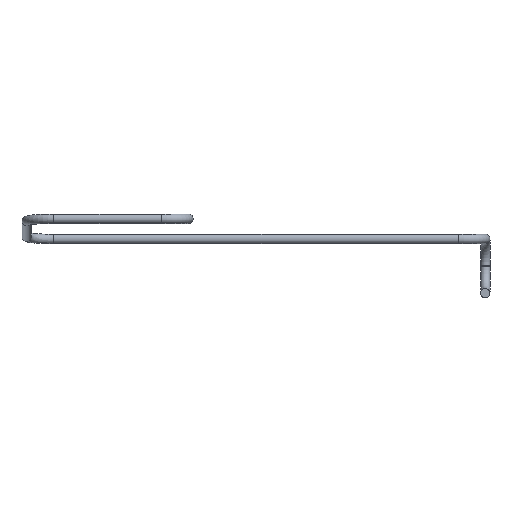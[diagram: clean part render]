
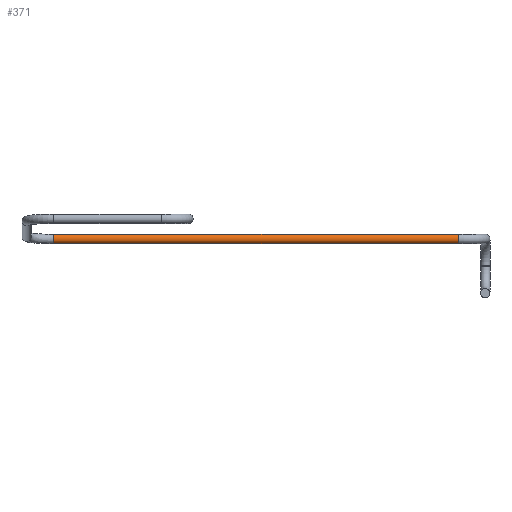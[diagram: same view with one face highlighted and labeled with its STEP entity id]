
A CAD part, left-side view. The second image highlights one B-rep face of the part: STEP entity #371.
In plain terms, the highlighted cylindrical face has radius 0.525 mm (diameter 1.05 mm), a full revolution.
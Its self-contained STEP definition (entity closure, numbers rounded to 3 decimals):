
#305 = TOROIDAL_SURFACE('',#306,3.,0.525);
#306 = AXIS2_PLACEMENT_3D('',#307,#308,#309);
#307 = CARTESIAN_POINT('',(8.5,-28.04,-11.15));
#308 = DIRECTION('',(-0.,0.,-1.));
#309 = DIRECTION('',(0.,-1.,0.));
#322 = VERTEX_POINT('',#323);
#323 = CARTESIAN_POINT('',(5.5,-28.04,-11.675));
#344 = EDGE_CURVE('',#322,#322,#345,.T.);
#345 = SURFACE_CURVE('',#346,(#351,#358),.PCURVE_S1.);
#346 = CIRCLE('',#347,0.525);
#347 = AXIS2_PLACEMENT_3D('',#348,#349,#350);
#348 = CARTESIAN_POINT('',(5.5,-28.04,-11.15));
#349 = DIRECTION('',(0.,-1.,0.));
#350 = DIRECTION('',(-1.,0.,0.));
#351 = PCURVE('',#305,#352);
#352 = DEFINITIONAL_REPRESENTATION('',(#353),#357);
#353 = LINE('',#354,#355);
#354 = CARTESIAN_POINT('',(1.571,0.));
#355 = VECTOR('',#356,1.);
#356 = DIRECTION('',(0.,1.));
#357 = ( GEOMETRIC_REPRESENTATION_CONTEXT(2) 
PARAMETRIC_REPRESENTATION_CONTEXT() REPRESENTATION_CONTEXT('2D SPACE',''
  ) );
#358 = PCURVE('',#359,#364);
#359 = CYLINDRICAL_SURFACE('',#360,0.525);
#360 = AXIS2_PLACEMENT_3D('',#361,#362,#363);
#361 = CARTESIAN_POINT('',(5.5,-28.04,-11.15));
#362 = DIRECTION('',(0.,1.,0.));
#363 = DIRECTION('',(0.,0.,-1.));
#364 = DEFINITIONAL_REPRESENTATION('',(#365),#368);
#365 = B_SPLINE_CURVE_WITH_KNOTS('',1,(#366,#367),.UNSPECIFIED.,.F.,.F.,
  (2,2),(1.571,7.854),.PIECEWISE_BEZIER_KNOTS.);
#366 = CARTESIAN_POINT('',(6.283,0.));
#367 = CARTESIAN_POINT('',(0.,0.));
#368 = ( GEOMETRIC_REPRESENTATION_CONTEXT(2) 
PARAMETRIC_REPRESENTATION_CONTEXT() REPRESENTATION_CONTEXT('2D SPACE',''
  ) );
#371 = ADVANCED_FACE('',(#372),#359,.T.);
#372 = FACE_BOUND('',#373,.T.);
#373 = EDGE_LOOP('',(#374,#396,#422,#423));
#374 = ORIENTED_EDGE('',*,*,#375,.T.);
#375 = EDGE_CURVE('',#322,#376,#378,.T.);
#376 = VERTEX_POINT('',#377);
#377 = CARTESIAN_POINT('',(5.5,17.,-11.675));
#378 = SEAM_CURVE('',#379,(#383,#389),.PCURVE_S1.);
#379 = LINE('',#380,#381);
#380 = CARTESIAN_POINT('',(5.5,-28.04,-11.675));
#381 = VECTOR('',#382,1.);
#382 = DIRECTION('',(0.,1.,0.));
#383 = PCURVE('',#359,#384);
#384 = DEFINITIONAL_REPRESENTATION('',(#385),#388);
#385 = B_SPLINE_CURVE_WITH_KNOTS('',1,(#386,#387),.UNSPECIFIED.,.F.,.F.,
  (2,2),(0.,45.04),.PIECEWISE_BEZIER_KNOTS.);
#386 = CARTESIAN_POINT('',(6.283,0.));
#387 = CARTESIAN_POINT('',(6.283,45.04));
#388 = ( GEOMETRIC_REPRESENTATION_CONTEXT(2) 
PARAMETRIC_REPRESENTATION_CONTEXT() REPRESENTATION_CONTEXT('2D SPACE',''
  ) );
#389 = PCURVE('',#359,#390);
#390 = DEFINITIONAL_REPRESENTATION('',(#391),#395);
#391 = LINE('',#392,#393);
#392 = CARTESIAN_POINT('',(0.,0.));
#393 = VECTOR('',#394,1.);
#394 = DIRECTION('',(0.,1.));
#395 = ( GEOMETRIC_REPRESENTATION_CONTEXT(2) 
PARAMETRIC_REPRESENTATION_CONTEXT() REPRESENTATION_CONTEXT('2D SPACE',''
  ) );
#396 = ORIENTED_EDGE('',*,*,#397,.F.);
#397 = EDGE_CURVE('',#376,#376,#398,.T.);
#398 = SURFACE_CURVE('',#399,(#404,#411),.PCURVE_S1.);
#399 = CIRCLE('',#400,0.525);
#400 = AXIS2_PLACEMENT_3D('',#401,#402,#403);
#401 = CARTESIAN_POINT('',(5.5,17.,-11.15));
#402 = DIRECTION('',(0.,1.,0.));
#403 = DIRECTION('',(0.,0.,-1.));
#404 = PCURVE('',#359,#405);
#405 = DEFINITIONAL_REPRESENTATION('',(#406),#410);
#406 = LINE('',#407,#408);
#407 = CARTESIAN_POINT('',(0.,45.04));
#408 = VECTOR('',#409,1.);
#409 = DIRECTION('',(1.,0.));
#410 = ( GEOMETRIC_REPRESENTATION_CONTEXT(2) 
PARAMETRIC_REPRESENTATION_CONTEXT() REPRESENTATION_CONTEXT('2D SPACE',''
  ) );
#411 = PCURVE('',#412,#417);
#412 = TOROIDAL_SURFACE('',#413,3.,0.525);
#413 = AXIS2_PLACEMENT_3D('',#414,#415,#416);
#414 = CARTESIAN_POINT('',(2.511,17.,-10.897));
#415 = DIRECTION('',(0.084,0.,
    0.996));
#416 = DIRECTION('',(0.996,0.,
    -0.084));
#417 = DEFINITIONAL_REPRESENTATION('',(#418),#421);
#418 = B_SPLINE_CURVE_WITH_KNOTS('',1,(#419,#420),.UNSPECIFIED.,.F.,.F.,
  (2,2),(0.,6.283),.PIECEWISE_BEZIER_KNOTS.);
#419 = CARTESIAN_POINT('',(0.,11.08));
#420 = CARTESIAN_POINT('',(0.,4.797));
#421 = ( GEOMETRIC_REPRESENTATION_CONTEXT(2) 
PARAMETRIC_REPRESENTATION_CONTEXT() REPRESENTATION_CONTEXT('2D SPACE',''
  ) );
#422 = ORIENTED_EDGE('',*,*,#375,.F.);
#423 = ORIENTED_EDGE('',*,*,#344,.F.);
